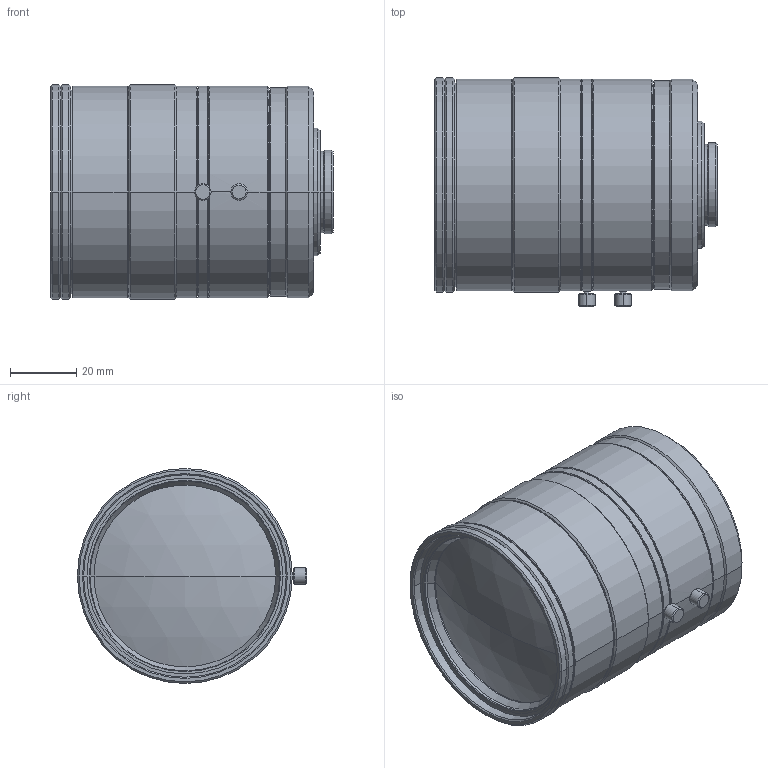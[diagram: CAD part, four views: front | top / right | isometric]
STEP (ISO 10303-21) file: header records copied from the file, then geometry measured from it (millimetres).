
FILE_DESCRIPTION (( 'STEP AP203' ), '1' );
FILE_NAME ('VS-50085_C.STEP', '2019-07-03T04:55:55', ( '' ), ( '' ), 'SwSTEP 2.0', 'SolidWorks 2018', '' );
FILE_SCHEMA (( 'CONFIG_CONTROL_DESIGN' ));
Length unit declared in the file: millimetre
Products named in the file (1): VS-50085_C
Bounding box: 85.47 x 69.3 x 65 mm (x, y, z)
Volume: 244799.5 mm3; surface area: 28610.6 mm2
Topology: 1 solids, 1 shells, 145 faces, 294 edges, 169 vertices
Faces by surface type: cone 70, cylinder 52, plane 21, sphere 2
Entity records: 3891 total; most frequent: DIRECTION 740, CARTESIAN_POINT 677, ORIENTED_EDGE 588, AXIS2_PLACEMENT_3D 308, EDGE_CURVE 294, VERTEX_POINT 169, EDGE_LOOP 163, CIRCLE 162
